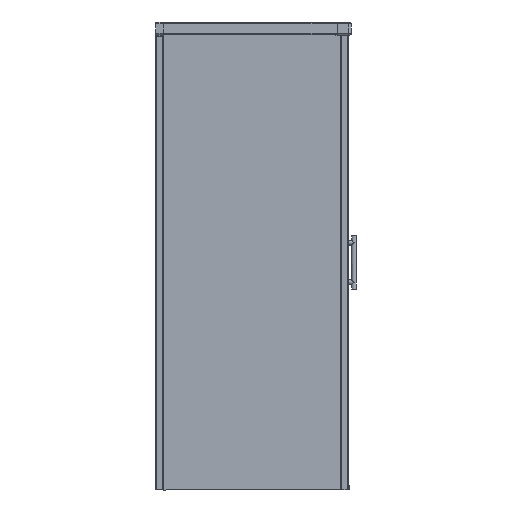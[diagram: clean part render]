
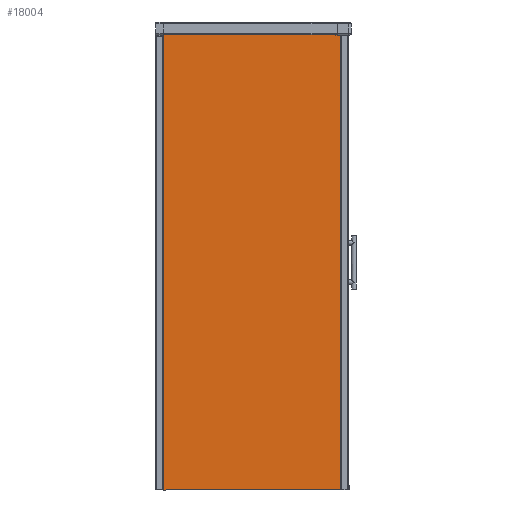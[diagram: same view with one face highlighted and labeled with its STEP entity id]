
A CAD part, front view. The second image highlights one B-rep face of the part: STEP entity #18004.
In plain terms, the highlighted planar face has unit normal (0, -1, 0).
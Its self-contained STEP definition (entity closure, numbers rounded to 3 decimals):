
#980=FACE_OUTER_BOUND($,#1978,.T.);
#1978=EDGE_LOOP($,(#12728,#12729,#12730,#12731,#12732,#12733,#12734,#12735,
#12736,#12737,#12738,#12739));
#3723=LINE($,#27370,#5484);
#3732=LINE($,#27438,#5493);
#3751=LINE($,#27494,#5512);
#3764=LINE($,#27558,#5525);
#3822=LINE($,#27795,#5583);
#3826=LINE($,#27803,#5587);
#3827=LINE($,#27805,#5588);
#3828=LINE($,#27807,#5589);
#3829=LINE($,#27809,#5590);
#3830=LINE($,#27811,#5591);
#3831=LINE($,#27813,#5592);
#3832=LINE($,#27814,#5593);
#5484=VECTOR($,#21694,0.909);
#5493=VECTOR($,#21727,6.);
#5512=VECTOR($,#21766,0.391);
#5525=VECTOR($,#21801,1.);
#5583=VECTOR($,#22013,699.55);
#5587=VECTOR($,#22019,1843.4);
#5588=VECTOR($,#22020,721.266);
#5589=VECTOR($,#22021,1848.3);
#5590=VECTOR($,#22022,15.216);
#5591=VECTOR($,#22023,0.1);
#5592=VECTOR($,#22024,5.2);
#5593=VECTOR($,#22025,2.);
#7299=VERTEX_POINT($,#27368);
#7300=VERTEX_POINT($,#27369);
#7316=VERTEX_POINT($,#27437);
#7339=VERTEX_POINT($,#27493);
#7358=VERTEX_POINT($,#27557);
#7418=VERTEX_POINT($,#27794);
#7421=VERTEX_POINT($,#27802);
#7422=VERTEX_POINT($,#27804);
#7423=VERTEX_POINT($,#27806);
#7424=VERTEX_POINT($,#27808);
#7425=VERTEX_POINT($,#27810);
#7426=VERTEX_POINT($,#27812);
#9216=EDGE_CURVE($,#7299,#7300,#3723,.T.);
#9236=EDGE_CURVE($,#7300,#7316,#3732,.T.);
#9262=EDGE_CURVE($,#7316,#7339,#3751,.T.);
#9285=EDGE_CURVE($,#7358,#7299,#3764,.T.);
#9386=EDGE_CURVE($,#7418,#7358,#3822,.T.);
#9390=EDGE_CURVE($,#7421,#7339,#3826,.T.);
#9391=EDGE_CURVE($,#7422,#7421,#3827,.T.);
#9392=EDGE_CURVE($,#7423,#7422,#3828,.T.);
#9393=EDGE_CURVE($,#7424,#7423,#3829,.T.);
#9394=EDGE_CURVE($,#7425,#7424,#3830,.T.);
#9395=EDGE_CURVE($,#7426,#7425,#3831,.T.);
#9396=EDGE_CURVE($,#7418,#7426,#3832,.T.);
#12728=ORIENTED_EDGE($,*,*,#9285,.T.);
#12729=ORIENTED_EDGE($,*,*,#9216,.T.);
#12730=ORIENTED_EDGE($,*,*,#9236,.T.);
#12731=ORIENTED_EDGE($,*,*,#9262,.T.);
#12732=ORIENTED_EDGE($,*,*,#9390,.F.);
#12733=ORIENTED_EDGE($,*,*,#9391,.F.);
#12734=ORIENTED_EDGE($,*,*,#9392,.F.);
#12735=ORIENTED_EDGE($,*,*,#9393,.F.);
#12736=ORIENTED_EDGE($,*,*,#9394,.F.);
#12737=ORIENTED_EDGE($,*,*,#9395,.F.);
#12738=ORIENTED_EDGE($,*,*,#9396,.F.);
#12739=ORIENTED_EDGE($,*,*,#9386,.T.);
#16361=PLANE($,#19230);
#18004=ADVANCED_FACE($,(#980),#16361,.T.);
#19230=AXIS2_PLACEMENT_3D($,#27801,#22017,#22018);
#21694=DIRECTION($,(-1.,0.,0.));
#21727=DIRECTION($,(0.,0.,-1.));
#21766=DIRECTION($,(-1.,0.,0.));
#21801=DIRECTION($,(0.,0.,-1.));
#22013=DIRECTION($,(-1.,0.,0.));
#22017=DIRECTION('center_axis',(0.,-1.,0.));
#22018=DIRECTION('ref_axis',(1.,0.,0.));
#22019=DIRECTION($,(0.,0.,1.));
#22020=DIRECTION($,(-1.,0.,0.));
#22021=DIRECTION($,(0.,0.,-1.));
#22022=DIRECTION($,(1.,0.,0.));
#22023=DIRECTION($,(0.,0.,-1.));
#22024=DIRECTION($,(1.,0.,0.));
#22025=DIRECTION($,(0.,0.,-1.));
#27368=CARTESIAN_POINT('',(1047.286,1732.143,1859.4));
#27369=CARTESIAN_POINT('',(1046.377,1732.143,1859.4));
#27370=CARTESIAN_POINT($,(1034.519,1732.143,1859.4));
#27437=CARTESIAN_POINT('',(1046.377,1732.143,1853.4));
#27438=CARTESIAN_POINT($,(1046.377,1732.143,932.2));
#27493=CARTESIAN_POINT('',(1045.986,1732.143,1853.4));
#27494=CARTESIAN_POINT($,(1026.502,1732.143,1853.4));
#27557=CARTESIAN_POINT('',(1047.286,1732.143,1860.4));
#27558=CARTESIAN_POINT($,(1047.286,1732.143,947.95));
#27794=CARTESIAN_POINT('',(1746.836,1732.143,1860.4));
#27795=CARTESIAN_POINT($,(1018.044,1732.143,1860.4));
#27801=CARTESIAN_POINT('Origin',(1021.752,1732.143,11.));
#27802=CARTESIAN_POINT('',(1045.986,1732.143,10.));
#27803=CARTESIAN_POINT($,(1045.986,1732.143,10.5));
#27804=CARTESIAN_POINT('',(1767.252,1732.143,10.));
#27805=CARTESIAN_POINT($,(1776.752,1732.143,10.));
#27806=CARTESIAN_POINT('',(1767.252,1732.143,1858.3));
#27807=CARTESIAN_POINT($,(1767.252,1732.143,10.5));
#27808=CARTESIAN_POINT('',(1752.036,1732.143,1858.3));
#27809=CARTESIAN_POINT($,(1401.602,1732.143,1858.3));
#27810=CARTESIAN_POINT('',(1752.036,1732.143,1858.4));
#27811=CARTESIAN_POINT($,(1752.036,1732.143,934.65));
#27812=CARTESIAN_POINT('',(1746.836,1732.143,1858.4));
#27813=CARTESIAN_POINT($,(1398.406,1732.143,1858.4));
#27814=CARTESIAN_POINT($,(1746.836,1732.143,960.8));
